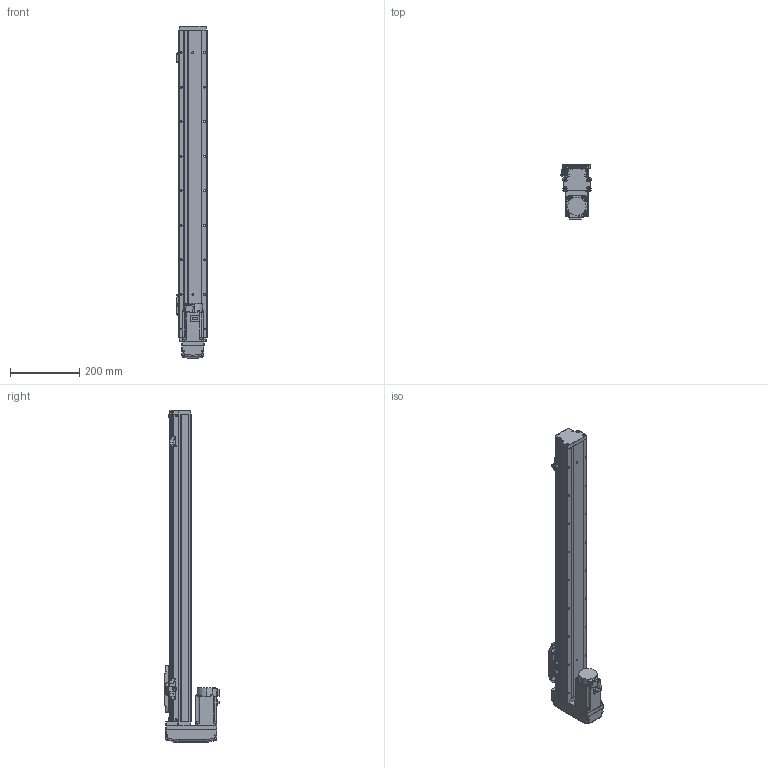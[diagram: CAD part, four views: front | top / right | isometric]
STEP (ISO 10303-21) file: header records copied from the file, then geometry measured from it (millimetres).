
FILE_DESCRIPTION (( 'STEP AP203' ), '1' );
FILE_NAME ('GTH8-700-BM-M20-C4.step', '2022-09-23T01:06:15', ( '微软用户' ), ( '微软中国' ), 'SwSTEP 2.0', 'SolidWorks 2020', '' );
FILE_SCHEMA (( 'CONFIG_CONTROL_DESIGN' ));
Length unit declared in the file: millimetre
Products named in the file (18): GTH80-022; BTH-M3X5X6; GTH80-001_700; GBT 70.1-M3℅6; hg-kn43j_-s100_; GTH80-003; GBT 70.1-M4×16; CTHA86-015-1_CTHA86-015-2; GTH80-004; GTH80-028; CTHA86-033_M40B; GTH80-006; GTH50-024; GTH8-700-BM-M20-C4; GTH80-013; GTH50-023; GBT 70.3-M3℅6; GBT96.1-2002 3×0.8
Assembly tree (57 placements, depth 2):
  GTH8-700-BM-M20-C4
    GTH80-001_700
    GTH80-003
    GTH80-004
    GTH80-006
    GTH80-013
    GBT 70.3-M3℅6  x4
    GTH80-022
    GBT 70.1-M3℅6  x14
    GBT 70.1-M4×16  x8
    GTH80-028  x2
    GTH50-024  x3
    GTH50-023  x3
    GBT96.1-2002 3×0.8  x6
    BTH-M3X5X6  x8
    hg-kn43j_-s100_
    CTHA86-015-1_CTHA86-015-2
    CTHA86-033_M40B
Bounding box: 86.9 x 160.3 x 961 mm (x, y, z)
Volume: 4843078.5 mm3; surface area: 496614.3 mm2
Topology: 59 solids, 59 shells, 2244 faces, 5187 edges, 3179 vertices
Faces by surface type: plane 1187, cylinder 615, cone 260, torus 166, bspline 8, sphere 8
Entity records: 41070 total; most frequent: CARTESIAN_POINT 7217, DIRECTION 6677, ORIENTED_EDGE 6192, EDGE_CURVE 3096, AXIS2_PLACEMENT_3D 2337, LINE 2003, VECTOR 2003, VERTEX_POINT 1954
